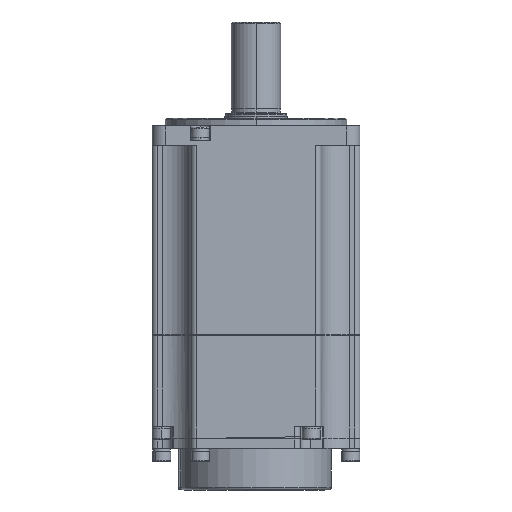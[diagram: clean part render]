
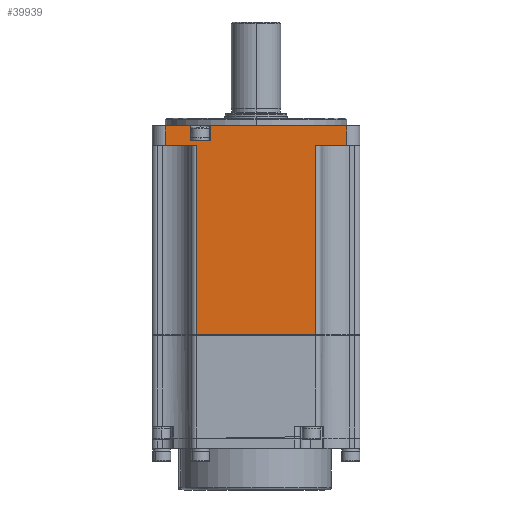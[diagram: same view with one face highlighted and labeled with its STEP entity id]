
A CAD part, front view. The second image highlights one B-rep face of the part: STEP entity #39939.
In plain terms, the highlighted planar face has unit normal (0, -1, 0).
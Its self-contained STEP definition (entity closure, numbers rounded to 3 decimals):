
#129 = EDGE_CURVE ( 'NONE', #28414, #43086, #4723, .T. ) ;
#277 = VERTEX_POINT ( 'NONE', #30287 ) ;
#392 = DIRECTION ( 'NONE',  ( 1., 0., 0. ) ) ;
#618 = EDGE_CURVE ( 'NONE', #277, #4729, #38513, .T. ) ;
#1207 = CARTESIAN_POINT ( 'NONE',  ( -22.941, -39.991, 5.253 ) ) ;
#2389 = VERTEX_POINT ( 'NONE', #1207 ) ;
#2790 = CARTESIAN_POINT ( 'NONE',  ( -25.341, -39.991, 85.653 ) ) ;
#2885 = ORIENTED_EDGE ( 'NONE', *, *, #42889, .T. ) ;
#3594 = ORIENTED_EDGE ( 'NONE', *, *, #44906, .T. ) ;
#3632 = LINE ( 'NONE', #16898, #13524 ) ;
#3908 = LINE ( 'NONE', #22825, #32473 ) ;
#4181 = AXIS2_PLACEMENT_3D ( 'NONE', #39991, #17588, #43803 ) ;
#4396 = EDGE_CURVE ( 'NONE', #4729, #27967, #6565, .T. ) ;
#4496 = ORIENTED_EDGE ( 'NONE', *, *, #4396, .T. ) ;
#4723 = LINE ( 'NONE', #2790, #43342 ) ;
#4729 = VERTEX_POINT ( 'NONE', #14528 ) ;
#5877 = ORIENTED_EDGE ( 'NONE', *, *, #25630, .T. ) ;
#6565 = LINE ( 'NONE', #42764, #45253 ) ;
#6953 = CARTESIAN_POINT ( 'NONE',  ( -25.341, -39.991, 80.153 ) ) ;
#7041 = VERTEX_POINT ( 'NONE', #34660 ) ;
#7195 = VERTEX_POINT ( 'NONE', #39789 ) ;
#8937 = VECTOR ( 'NONE', #38726, 1000. ) ;
#9239 = CARTESIAN_POINT ( 'NONE',  ( -25.341, -39.991, 78.153 ) ) ;
#9595 = VECTOR ( 'NONE', #27118, 1000. ) ;
#9657 = VECTOR ( 'NONE', #42255, 1000. ) ;
#9807 = LINE ( 'NONE', #18988, #47342 ) ;
#10536 = ORIENTED_EDGE ( 'NONE', *, *, #42142, .T. ) ;
#11313 = EDGE_CURVE ( 'NONE', #46180, #2389, #39438, .T. ) ;
#11355 = ORIENTED_EDGE ( 'NONE', *, *, #40816, .T. ) ;
#12247 = CARTESIAN_POINT ( 'NONE',  ( 35.059, -40.013, 85.653 ) ) ;
#13019 = CARTESIAN_POINT ( 'NONE',  ( 23.059, -40.009, 78.153 ) ) ;
#13236 = CARTESIAN_POINT ( 'NONE',  ( -17.341, -39.994, 85.653 ) ) ;
#13524 = VECTOR ( 'NONE', #39287, 1000. ) ;
#13793 = ORIENTED_EDGE ( 'NONE', *, *, #41348, .T. ) ;
#14528 = CARTESIAN_POINT ( 'NONE',  ( -34.941, -39.987, 85.653 ) ) ;
#15799 = ORIENTED_EDGE ( 'NONE', *, *, #11313, .F. ) ;
#15847 = CARTESIAN_POINT ( 'NONE',  ( -25.341, -39.991, 85.653 ) ) ;
#16898 = CARTESIAN_POINT ( 'NONE',  ( -25.341, -39.991, 85.653 ) ) ;
#16938 = VERTEX_POINT ( 'NONE', #6953 ) ;
#17028 = LINE ( 'NONE', #9239, #44602 ) ;
#17588 = DIRECTION ( 'NONE',  ( 0., -1., 0. ) ) ;
#18988 = CARTESIAN_POINT ( 'NONE',  ( -25.341, -39.991, 78.153 ) ) ;
#19140 = VERTEX_POINT ( 'NONE', #13019 ) ;
#19794 = CARTESIAN_POINT ( 'NONE',  ( -25.341, -39.991, 80.153 ) ) ;
#20821 = CARTESIAN_POINT ( 'NONE',  ( 35.059, -40.013, 78.153 ) ) ;
#21904 = EDGE_CURVE ( 'NONE', #19140, #46180, #25190, .T. ) ;
#22825 = CARTESIAN_POINT ( 'NONE',  ( -22.941, -39.991, 85.653 ) ) ;
#24089 = DIRECTION ( 'NONE',  ( 1., 0., 0. ) ) ;
#24199 = CARTESIAN_POINT ( 'NONE',  ( -34.941, -39.987, 78.153 ) ) ;
#24915 = PLANE ( 'NONE',  #4181 ) ;
#25190 = LINE ( 'NONE', #33679, #45208 ) ;
#25292 = EDGE_LOOP ( 'NONE', ( #13793, #15799, #29463, #32206, #5877, #31440, #10536, #3594, #2885, #44233, #4496, #11355 ) ) ;
#25630 = EDGE_CURVE ( 'NONE', #47293, #28414, #34021, .T. ) ;
#26111 = EDGE_CURVE ( 'NONE', #19140, #47293, #17028, .T. ) ;
#26538 = VECTOR ( 'NONE', #35634, 1000. ) ;
#27118 = DIRECTION ( 'NONE',  ( -1., 0., 0. ) ) ;
#27967 = VERTEX_POINT ( 'NONE', #24199 ) ;
#28414 = VERTEX_POINT ( 'NONE', #12247 ) ;
#28528 = VECTOR ( 'NONE', #42040, 1000. ) ;
#29463 = ORIENTED_EDGE ( 'NONE', *, *, #21904, .F. ) ;
#29528 = LINE ( 'NONE', #19794, #9657 ) ;
#30287 = CARTESIAN_POINT ( 'NONE',  ( -25.341, -39.991, 85.653 ) ) ;
#31440 = ORIENTED_EDGE ( 'NONE', *, *, #129, .T. ) ;
#31706 = DIRECTION ( 'NONE',  ( 0., 0., -1. ) ) ;
#32206 = ORIENTED_EDGE ( 'NONE', *, *, #26111, .T. ) ;
#32473 = VECTOR ( 'NONE', #45344, 1000. ) ;
#33517 = DIRECTION ( 'NONE',  ( 0., 0., -1. ) ) ;
#33679 = CARTESIAN_POINT ( 'NONE',  ( 23.059, -40.009, 68.653 ) ) ;
#34021 = LINE ( 'NONE', #46511, #8937 ) ;
#34660 = CARTESIAN_POINT ( 'NONE',  ( -17.341, -39.994, 80.153 ) ) ;
#35634 = DIRECTION ( 'NONE',  ( 0., 0., -1. ) ) ;
#36456 = LINE ( 'NONE', #13236, #26538 ) ;
#38513 = LINE ( 'NONE', #15847, #28528 ) ;
#38726 = DIRECTION ( 'NONE',  ( 0., 0., 1. ) ) ;
#39287 = DIRECTION ( 'NONE',  ( 0., 0., 1. ) ) ;
#39438 = LINE ( 'NONE', #45885, #9595 ) ;
#39789 = CARTESIAN_POINT ( 'NONE',  ( -22.941, -39.991, 78.153 ) ) ;
#39939 = ADVANCED_FACE ( 'NONE', ( #45400 ), #24915, .T. ) ;
#39991 = CARTESIAN_POINT ( 'NONE',  ( -25.341, -39.991, 85.653 ) ) ;
#40440 = CARTESIAN_POINT ( 'NONE',  ( -17.341, -39.994, 85.653 ) ) ;
#40816 = EDGE_CURVE ( 'NONE', #27967, #7195, #9807, .T. ) ;
#41140 = CARTESIAN_POINT ( 'NONE',  ( 23.059, -40.009, 5.253 ) ) ;
#41348 = EDGE_CURVE ( 'NONE', #7195, #2389, #3908, .T. ) ;
#42040 = DIRECTION ( 'NONE',  ( -1., 0., 0. ) ) ;
#42142 = EDGE_CURVE ( 'NONE', #43086, #7041, #36456, .T. ) ;
#42255 = DIRECTION ( 'NONE',  ( -1., 0., 0. ) ) ;
#42764 = CARTESIAN_POINT ( 'NONE',  ( -34.941, -39.987, 85.653 ) ) ;
#42889 = EDGE_CURVE ( 'NONE', #16938, #277, #3632, .T. ) ;
#43086 = VERTEX_POINT ( 'NONE', #40440 ) ;
#43342 = VECTOR ( 'NONE', #47658, 1000. ) ;
#43803 = DIRECTION ( 'NONE',  ( 1., 0., 0. ) ) ;
#44233 = ORIENTED_EDGE ( 'NONE', *, *, #618, .T. ) ;
#44602 = VECTOR ( 'NONE', #24089, 1000. ) ;
#44906 = EDGE_CURVE ( 'NONE', #7041, #16938, #29528, .T. ) ;
#45208 = VECTOR ( 'NONE', #33517, 1000. ) ;
#45253 = VECTOR ( 'NONE', #31706, 1000. ) ;
#45344 = DIRECTION ( 'NONE',  ( 0., 0., -1. ) ) ;
#45400 = FACE_OUTER_BOUND ( 'NONE', #25292, .T. ) ;
#45885 = CARTESIAN_POINT ( 'NONE',  ( 23.059, -40.009, 5.253 ) ) ;
#46180 = VERTEX_POINT ( 'NONE', #41140 ) ;
#46511 = CARTESIAN_POINT ( 'NONE',  ( 35.059, -40.013, 85.653 ) ) ;
#47293 = VERTEX_POINT ( 'NONE', #20821 ) ;
#47342 = VECTOR ( 'NONE', #392, 1000. ) ;
#47658 = DIRECTION ( 'NONE',  ( -1., 0., 0. ) ) ;
